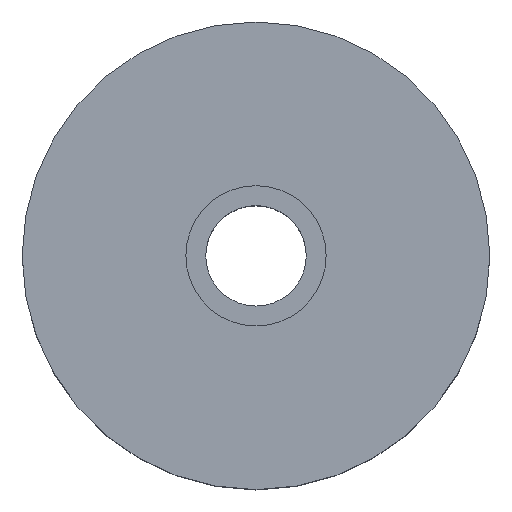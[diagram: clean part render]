
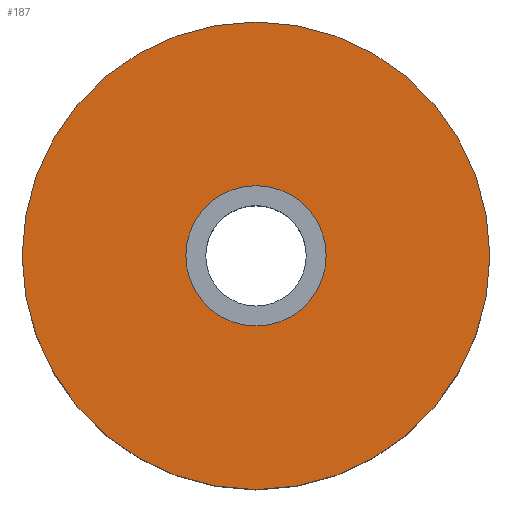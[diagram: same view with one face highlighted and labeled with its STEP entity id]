
A CAD part, top view. The second image highlights one B-rep face of the part: STEP entity #187.
In plain terms, the highlighted planar face has unit normal (0, 0, 1).
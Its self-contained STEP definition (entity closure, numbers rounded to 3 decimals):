
#158 = EDGE_CURVE('',#159,#159,#161,.T.);
#159 = VERTEX_POINT('',#160);
#160 = CARTESIAN_POINT('',(20.,0.,17.8));
#161 = CIRCLE('',#162,20.);
#162 = AXIS2_PLACEMENT_3D('',#163,#164,#165);
#163 = CARTESIAN_POINT('',(0.,0.,17.8));
#164 = DIRECTION('',(0.,0.,1.));
#165 = DIRECTION('',(1.,0.,-0.));
#187 = ADVANCED_FACE('',(#188,#191),#202,.T.);
#188 = FACE_BOUND('',#189,.T.);
#189 = EDGE_LOOP('',(#190));
#190 = ORIENTED_EDGE('',*,*,#158,.T.);
#191 = FACE_BOUND('',#192,.T.);
#192 = EDGE_LOOP('',(#193));
#193 = ORIENTED_EDGE('',*,*,#194,.F.);
#194 = EDGE_CURVE('',#195,#195,#197,.T.);
#195 = VERTEX_POINT('',#196);
#196 = CARTESIAN_POINT('',(6.,0.,17.8));
#197 = CIRCLE('',#198,6.);
#198 = AXIS2_PLACEMENT_3D('',#199,#200,#201);
#199 = CARTESIAN_POINT('',(0.,0.,17.8));
#200 = DIRECTION('',(0.,0.,1.));
#201 = DIRECTION('',(1.,0.,-0.));
#202 = PLANE('',#203);
#203 = AXIS2_PLACEMENT_3D('',#204,#205,#206);
#204 = CARTESIAN_POINT('',(0.,0.,17.8));
#205 = DIRECTION('',(0.,0.,1.));
#206 = DIRECTION('',(1.,0.,-0.));
